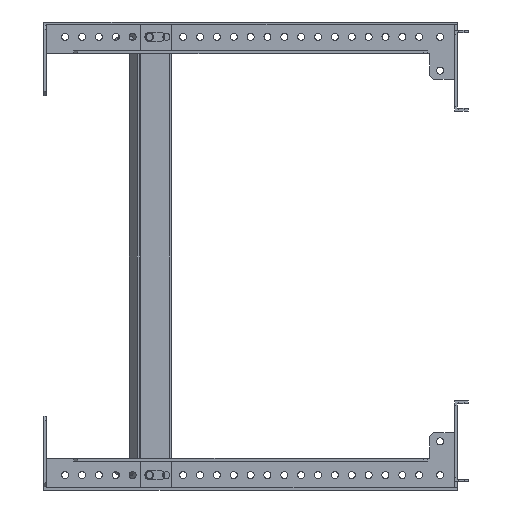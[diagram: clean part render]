
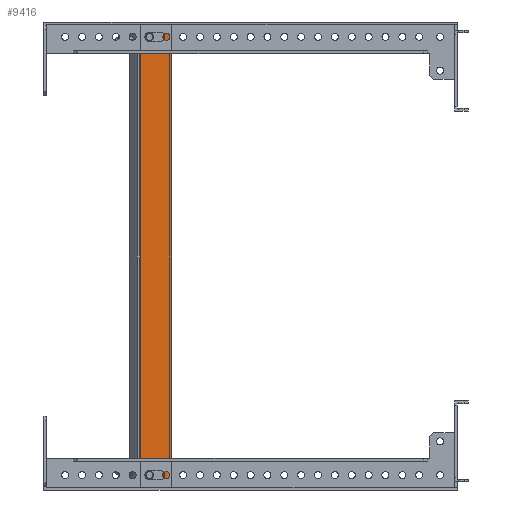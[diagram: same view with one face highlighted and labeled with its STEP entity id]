
A CAD part, front view. The second image highlights one B-rep face of the part: STEP entity #9416.
In plain terms, the highlighted planar face has unit normal (0, -1, 0).
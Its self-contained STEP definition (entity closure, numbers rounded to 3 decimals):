
#137 = VERTEX_POINT ( 'NONE', #19073 ) ;
#1541 = CARTESIAN_POINT ( 'NONE',  ( 1105.802, -254., 247.5 ) ) ;
#1817 = CARTESIAN_POINT ( 'NONE',  ( 1128.304, -254., 247.5 ) ) ;
#1931 = CARTESIAN_POINT ( 'NONE',  ( 1108.802, -254., 237.5 ) ) ;
#2017 = ORIENTED_EDGE ( 'NONE', *, *, #2298, .T. ) ;
#2298 = EDGE_CURVE ( 'NONE', #19927, #14955, #19321, .T. ) ;
#2307 = CARTESIAN_POINT ( 'NONE',  ( 1112.302, -254., 241. ) ) ;
#2350 = LINE ( 'NONE', #24130, #5759 ) ;
#2791 = CARTESIAN_POINT ( 'NONE',  ( 1120.302, -254., -87.5 ) ) ;
#3973 = EDGE_CURVE ( 'NONE', #137, #19927, #10368, .T. ) ;
#4094 = VECTOR ( 'NONE', #17053, 1000. ) ;
#4238 = AXIS2_PLACEMENT_3D ( 'NONE', #12650, #12789, #6989 ) ;
#4648 = DIRECTION ( 'NONE',  ( 0., -1., 0. ) ) ;
#5076 = AXIS2_PLACEMENT_3D ( 'NONE', #12782, #20695, #16624 ) ;
#5759 = VECTOR ( 'NONE', #22399, 1000. ) ;
#5907 = DIRECTION ( 'NONE',  ( 0., 1., 0. ) ) ;
#5942 = VERTEX_POINT ( 'NONE', #1817 ) ;
#5960 = EDGE_CURVE ( 'NONE', #12238, #6737, #14331, .T. ) ;
#6108 = VERTEX_POINT ( 'NONE', #20150 ) ;
#6233 = CARTESIAN_POINT ( 'NONE',  ( 1120.302, -254., -91. ) ) ;
#6301 = DIRECTION ( 'NONE',  ( -1., 0., 0. ) ) ;
#6412 = VECTOR ( 'NONE', #22080, 1000. ) ;
#6737 = VERTEX_POINT ( 'NONE', #21545 ) ;
#6834 = AXIS2_PLACEMENT_3D ( 'NONE', #25567, #11572, #17128 ) ;
#6935 = DIRECTION ( 'NONE',  ( 1., 0., 0. ) ) ;
#6985 = VERTEX_POINT ( 'NONE', #6233 ) ;
#6989 = DIRECTION ( 'NONE',  ( -1., 0., 0. ) ) ;
#7146 = DIRECTION ( 'NONE',  ( 1., 0., 0. ) ) ;
#7275 = CARTESIAN_POINT ( 'NONE',  ( 1150.77, -254., 75. ) ) ;
#7949 = VECTOR ( 'NONE', #23945, 1000. ) ;
#8026 = AXIS2_PLACEMENT_3D ( 'NONE', #2791, #4648, #12558 ) ;
#8090 = VECTOR ( 'NONE', #6935, 1000. ) ;
#8274 = CARTESIAN_POINT ( 'NONE',  ( 1112.302, -254., -84. ) ) ;
#8389 = CARTESIAN_POINT ( 'NONE',  ( 1112.302, -254., -91. ) ) ;
#8908 = CIRCLE ( 'NONE', #6834, 3.5 ) ;
#8991 = CARTESIAN_POINT ( 'NONE',  ( 1112.302, -254., 234. ) ) ;
#9416 = ADVANCED_FACE ( 'NONE', ( #23491, #25490, #19410 ), #15439, .F. ) ;
#9480 = EDGE_CURVE ( 'NONE', #14955, #6108, #12945, .T. ) ;
#9709 = AXIS2_PLACEMENT_3D ( 'NONE', #21125, #21258, #18753 ) ;
#9777 = ORIENTED_EDGE ( 'NONE', *, *, #10228, .T. ) ;
#10228 = EDGE_CURVE ( 'NONE', #18442, #5942, #14730, .T. ) ;
#10368 = LINE ( 'NONE', #2307, #10382 ) ;
#10382 = VECTOR ( 'NONE', #16429, 1000. ) ;
#10638 = ORIENTED_EDGE ( 'NONE', *, *, #9480, .T. ) ;
#10716 = ORIENTED_EDGE ( 'NONE', *, *, #11665, .F. ) ;
#11572 = DIRECTION ( 'NONE',  ( 0., 1., 0. ) ) ;
#11665 = EDGE_CURVE ( 'NONE', #21126, #5942, #15217, .T. ) ;
#11675 = CARTESIAN_POINT ( 'NONE',  ( 1112.302, -254., -91. ) ) ;
#12104 = AXIS2_PLACEMENT_3D ( 'NONE', #7275, #17442, #7146 ) ;
#12238 = VERTEX_POINT ( 'NONE', #15588 ) ;
#12439 = ORIENTED_EDGE ( 'NONE', *, *, #5960, .F. ) ;
#12558 = DIRECTION ( 'NONE',  ( -1., 0., 0. ) ) ;
#12650 = CARTESIAN_POINT ( 'NONE',  ( 1112.302, -254., 237.5 ) ) ;
#12782 = CARTESIAN_POINT ( 'NONE',  ( 1112.302, -254., -87.5 ) ) ;
#12789 = DIRECTION ( 'NONE',  ( 0., 1., 0. ) ) ;
#12879 = DIRECTION ( 'NONE',  ( 0., 0., 1. ) ) ;
#12945 = LINE ( 'NONE', #8991, #4094 ) ;
#13314 = ORIENTED_EDGE ( 'NONE', *, *, #14156, .F. ) ;
#13385 = ORIENTED_EDGE ( 'NONE', *, *, #15840, .T. ) ;
#14156 = EDGE_CURVE ( 'NONE', #21457, #20081, #20645, .T. ) ;
#14331 = LINE ( 'NONE', #8274, #24668 ) ;
#14678 = VECTOR ( 'NONE', #12879, 1000. ) ;
#14730 = LINE ( 'NONE', #22780, #14678 ) ;
#14955 = VERTEX_POINT ( 'NONE', #18527 ) ;
#15217 = LINE ( 'NONE', #19062, #8090 ) ;
#15372 = LINE ( 'NONE', #11675, #7949 ) ;
#15386 = EDGE_CURVE ( 'NONE', #6737, #21457, #17716, .T. ) ;
#15439 = PLANE ( 'NONE',  #12104 ) ;
#15520 = CARTESIAN_POINT ( 'NONE',  ( 1120.302, -254., 241. ) ) ;
#15588 = CARTESIAN_POINT ( 'NONE',  ( 1120.302, -254., -84. ) ) ;
#15840 = EDGE_CURVE ( 'NONE', #6108, #19503, #23624, .T. ) ;
#16060 = EDGE_CURVE ( 'NONE', #6985, #12238, #19411, .T. ) ;
#16077 = EDGE_LOOP ( 'NONE', ( #13385, #16867, #25172, #2017, #10638 ) ) ;
#16429 = DIRECTION ( 'NONE',  ( 1., 0., 0. ) ) ;
#16624 = DIRECTION ( 'NONE',  ( -1., 0., 0. ) ) ;
#16867 = ORIENTED_EDGE ( 'NONE', *, *, #19326, .T. ) ;
#17053 = DIRECTION ( 'NONE',  ( -1., 0., 0. ) ) ;
#17128 = DIRECTION ( 'NONE',  ( -1., 0., 0. ) ) ;
#17442 = DIRECTION ( 'NONE',  ( 0., 1., 0. ) ) ;
#17655 = AXIS2_PLACEMENT_3D ( 'NONE', #21871, #5907, #19505 ) ;
#17716 = CIRCLE ( 'NONE', #9709, 3.5 ) ;
#18442 = VERTEX_POINT ( 'NONE', #25108 ) ;
#18527 = CARTESIAN_POINT ( 'NONE',  ( 1120.302, -254., 234. ) ) ;
#18617 = VERTEX_POINT ( 'NONE', #25501 ) ;
#18753 = DIRECTION ( 'NONE',  ( -1., 0., 0. ) ) ;
#18828 = ORIENTED_EDGE ( 'NONE', *, *, #16060, .F. ) ;
#18945 = CARTESIAN_POINT ( 'NONE',  ( 1108.802, -254., -87.5 ) ) ;
#18951 = EDGE_LOOP ( 'NONE', ( #19751, #13314, #21020, #12439, #18828 ) ) ;
#19062 = CARTESIAN_POINT ( 'NONE',  ( 1105.802, -254., 247.5 ) ) ;
#19073 = CARTESIAN_POINT ( 'NONE',  ( 1112.302, -254., 241. ) ) ;
#19321 = CIRCLE ( 'NONE', #17655, 3.5 ) ;
#19326 = EDGE_CURVE ( 'NONE', #19503, #137, #8908, .T. ) ;
#19410 = FACE_BOUND ( 'NONE', #18951, .T. ) ;
#19411 = CIRCLE ( 'NONE', #8026, 3.5 ) ;
#19503 = VERTEX_POINT ( 'NONE', #1931 ) ;
#19505 = DIRECTION ( 'NONE',  ( -1., 0., 0. ) ) ;
#19683 = EDGE_CURVE ( 'NONE', #18617, #21126, #19968, .T. ) ;
#19751 = ORIENTED_EDGE ( 'NONE', *, *, #22816, .F. ) ;
#19927 = VERTEX_POINT ( 'NONE', #15520 ) ;
#19968 = LINE ( 'NONE', #20094, #6412 ) ;
#20081 = VERTEX_POINT ( 'NONE', #8389 ) ;
#20094 = CARTESIAN_POINT ( 'NONE',  ( 1105.802, -254., -97.5 ) ) ;
#20150 = CARTESIAN_POINT ( 'NONE',  ( 1112.302, -254., 234. ) ) ;
#20645 = CIRCLE ( 'NONE', #5076, 3.5 ) ;
#20695 = DIRECTION ( 'NONE',  ( 0., -1., 0. ) ) ;
#21020 = ORIENTED_EDGE ( 'NONE', *, *, #15386, .F. ) ;
#21125 = CARTESIAN_POINT ( 'NONE',  ( 1112.302, -254., -87.5 ) ) ;
#21126 = VERTEX_POINT ( 'NONE', #1541 ) ;
#21258 = DIRECTION ( 'NONE',  ( 0., -1., 0. ) ) ;
#21457 = VERTEX_POINT ( 'NONE', #18945 ) ;
#21545 = CARTESIAN_POINT ( 'NONE',  ( 1112.302, -254., -84. ) ) ;
#21871 = CARTESIAN_POINT ( 'NONE',  ( 1120.302, -254., 237.5 ) ) ;
#22080 = DIRECTION ( 'NONE',  ( 0., 0., 1. ) ) ;
#22399 = DIRECTION ( 'NONE',  ( -1., 0., 0. ) ) ;
#22780 = CARTESIAN_POINT ( 'NONE',  ( 1128.304, -254., -100.859 ) ) ;
#22816 = EDGE_CURVE ( 'NONE', #20081, #6985, #15372, .T. ) ;
#23234 = ORIENTED_EDGE ( 'NONE', *, *, #19683, .F. ) ;
#23384 = EDGE_LOOP ( 'NONE', ( #10716, #23234, #25035, #9777 ) ) ;
#23491 = FACE_OUTER_BOUND ( 'NONE', #23384, .T. ) ;
#23624 = CIRCLE ( 'NONE', #4238, 3.5 ) ;
#23945 = DIRECTION ( 'NONE',  ( 1., 0., 0. ) ) ;
#24130 = CARTESIAN_POINT ( 'NONE',  ( 1150.146, -254., -97.5 ) ) ;
#24668 = VECTOR ( 'NONE', #6301, 1000. ) ;
#24895 = EDGE_CURVE ( 'NONE', #18442, #18617, #2350, .T. ) ;
#25035 = ORIENTED_EDGE ( 'NONE', *, *, #24895, .F. ) ;
#25108 = CARTESIAN_POINT ( 'NONE',  ( 1128.304, -254., -97.5 ) ) ;
#25172 = ORIENTED_EDGE ( 'NONE', *, *, #3973, .T. ) ;
#25490 = FACE_BOUND ( 'NONE', #16077, .T. ) ;
#25501 = CARTESIAN_POINT ( 'NONE',  ( 1105.802, -254., -97.5 ) ) ;
#25567 = CARTESIAN_POINT ( 'NONE',  ( 1112.302, -254., 237.5 ) ) ;
